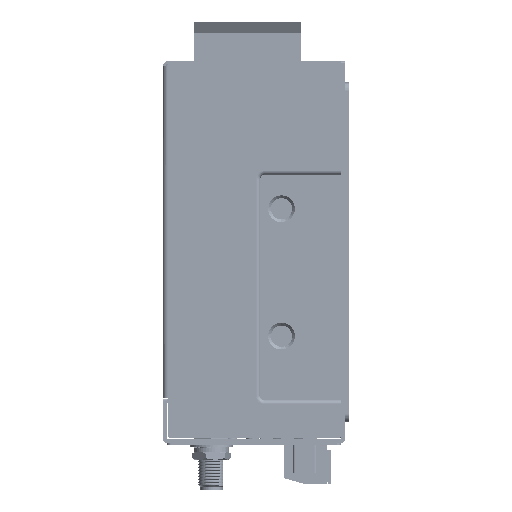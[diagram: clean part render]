
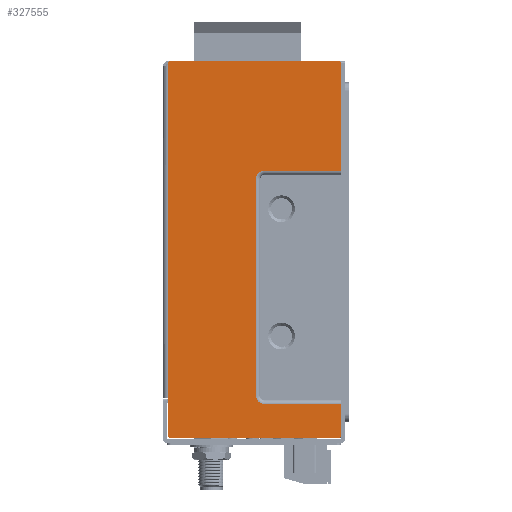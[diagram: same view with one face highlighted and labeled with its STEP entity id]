
A CAD part, left-side view. The second image highlights one B-rep face of the part: STEP entity #327555.
In plain terms, the highlighted planar face has unit normal (-1, 0, 0).
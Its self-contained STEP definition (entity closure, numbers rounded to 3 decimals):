
#4999 = LINE ( 'NONE', #87604, #101837 ) ;
#13668 = CARTESIAN_POINT ( 'NONE',  ( 0., 40.5, 9.15 ) ) ;
#20736 = ORIENTED_EDGE ( 'NONE', *, *, #264927, .T. ) ;
#22069 = EDGE_CURVE ( 'NONE', #65957, #213054, #4999, .T. ) ;
#23584 = CARTESIAN_POINT ( 'NONE',  ( 0., 41., -53.35 ) ) ;
#24817 = DIRECTION ( 'NONE',  ( 0., -1., 0. ) ) ;
#26804 = ORIENTED_EDGE ( 'NONE', *, *, #22069, .F. ) ;
#27571 = CARTESIAN_POINT ( 'NONE',  ( 0., 0.25, -119.862 ) ) ;
#28349 = EDGE_CURVE ( 'NONE', #269604, #99329, #454942, .T. ) ;
#39164 = CIRCLE ( 'NONE', #210159, 2. ) ;
#46855 = AXIS2_PLACEMENT_3D ( 'NONE', #473556, #258860, #434561 ) ;
#47172 = EDGE_CURVE ( 'NONE', #118512, #274430, #470676, .T. ) ;
#52175 = CARTESIAN_POINT ( 'NONE',  ( 0., 40.5, 9.65 ) ) ;
#59622 = DIRECTION ( 'NONE',  ( 0., 1., 0. ) ) ;
#61406 = CARTESIAN_POINT ( 'NONE',  ( 0., 23., 1.65 ) ) ;
#64892 = EDGE_CURVE ( 'NONE', #193754, #142544, #316371, .T. ) ;
#65957 = VERTEX_POINT ( 'NONE', #246201 ) ;
#66289 = EDGE_CURVE ( 'NONE', #318173, #103723, #396752, .T. ) ;
#67476 = ORIENTED_EDGE ( 'NONE', *, *, #262192, .T. ) ;
#67615 = VERTEX_POINT ( 'NONE', #23584 ) ;
#72549 = CARTESIAN_POINT ( 'NONE',  ( 0., 0., -53.35 ) ) ;
#72637 = CARTESIAN_POINT ( 'NONE',  ( 0., 41., 9.15 ) ) ;
#73888 = LINE ( 'NONE', #290799, #427929 ) ;
#77316 = DIRECTION ( 'NONE',  ( 0., 1., 0. ) ) ;
#77768 = ORIENTED_EDGE ( 'NONE', *, *, #354176, .T. ) ;
#79897 = CARTESIAN_POINT ( 'NONE',  ( 0., 40.5, -78.6 ) ) ;
#80133 = CARTESIAN_POINT ( 'NONE',  ( 0., 41., 1.65 ) ) ;
#81314 = AXIS2_PLACEMENT_3D ( 'NONE', #79897, #374794, #408991 ) ;
#82693 = CARTESIAN_POINT ( 'NONE',  ( 0., 23., 1.65 ) ) ;
#87604 = CARTESIAN_POINT ( 'NONE',  ( 0., 0.25, 9.65 ) ) ;
#89874 = CARTESIAN_POINT ( 'NONE',  ( 0., 0.75, -78.6 ) ) ;
#99329 = VERTEX_POINT ( 'NONE', #143856 ) ;
#101837 = VECTOR ( 'NONE', #267939, 1000. ) ;
#103723 = VERTEX_POINT ( 'NONE', #224429 ) ;
#104794 = ORIENTED_EDGE ( 'NONE', *, *, #47172, .T. ) ;
#105293 = LINE ( 'NONE', #478151, #469911 ) ;
#107426 = ORIENTED_EDGE ( 'NONE', *, *, #134273, .T. ) ;
#111476 = LINE ( 'NONE', #72549, #169003 ) ;
#115192 = DIRECTION ( 'NONE',  ( 0., 0., -1. ) ) ;
#118512 = VERTEX_POINT ( 'NONE', #80133 ) ;
#119306 = DIRECTION ( 'NONE',  ( 0., 1., 0. ) ) ;
#126281 = CARTESIAN_POINT ( 'NONE',  ( 0., 23., -0.35 ) ) ;
#126331 = ORIENTED_EDGE ( 'NONE', *, *, #66289, .T. ) ;
#130223 = DIRECTION ( 'NONE',  ( -1., 0., 0. ) ) ;
#134273 = EDGE_CURVE ( 'NONE', #103723, #478543, #39164, .T. ) ;
#136718 = CIRCLE ( 'NONE', #152021, 0.5 ) ;
#141004 = CARTESIAN_POINT ( 'NONE',  ( 0., 21., 0. ) ) ;
#142544 = VERTEX_POINT ( 'NONE', #361020 ) ;
#143856 = CARTESIAN_POINT ( 'NONE',  ( 0., 40.5, -79.1 ) ) ;
#152021 = AXIS2_PLACEMENT_3D ( 'NONE', #13668, #162273, #244824 ) ;
#153395 = ORIENTED_EDGE ( 'NONE', *, *, #260372, .T. ) ;
#159494 = DIRECTION ( 'NONE',  ( 0., -1., 0. ) ) ;
#161898 = LINE ( 'NONE', #424946, #358108 ) ;
#162273 = DIRECTION ( 'NONE',  ( -1., 0., 0. ) ) ;
#162630 = CIRCLE ( 'NONE', #263795, 0.5 ) ;
#169003 = VECTOR ( 'NONE', #77316, 1000. ) ;
#172840 = CIRCLE ( 'NONE', #437593, 0.5 ) ;
#177752 = EDGE_CURVE ( 'NONE', #65957, #142544, #162630, .T. ) ;
#182335 = CARTESIAN_POINT ( 'NONE',  ( 0., 0.25, 0.15 ) ) ;
#188925 = EDGE_CURVE ( 'NONE', #99329, #281277, #161898, .T. ) ;
#193754 = VERTEX_POINT ( 'NONE', #52175 ) ;
#203419 = VECTOR ( 'NONE', #333354, 1000. ) ;
#204472 = VERTEX_POINT ( 'NONE', #72637 ) ;
#208550 = CIRCLE ( 'NONE', #325534, 2. ) ;
#210159 = AXIS2_PLACEMENT_3D ( 'NONE', #329147, #297253, #446060 ) ;
#213054 = VERTEX_POINT ( 'NONE', #182335 ) ;
#216806 = ORIENTED_EDGE ( 'NONE', *, *, #64892, .F. ) ;
#219956 = CARTESIAN_POINT ( 'NONE',  ( 0., 0.25, -77.923 ) ) ;
#222315 = PLANE ( 'NONE',  #46855 ) ;
#224429 = CARTESIAN_POINT ( 'NONE',  ( 0., 21., -51.35 ) ) ;
#235591 = VERTEX_POINT ( 'NONE', #356246 ) ;
#235687 = ORIENTED_EDGE ( 'NONE', *, *, #28349, .T. ) ;
#238554 = VECTOR ( 'NONE', #477142, 1000. ) ;
#244824 = DIRECTION ( 'NONE',  ( 0., 1., 0. ) ) ;
#246201 = CARTESIAN_POINT ( 'NONE',  ( 0., 0.25, 9.15 ) ) ;
#249148 = DIRECTION ( 'NONE',  ( 0., 0., 1. ) ) ;
#254119 = FACE_OUTER_BOUND ( 'NONE', #359401, .T. ) ;
#255361 = LINE ( 'NONE', #404056, #203419 ) ;
#258860 = DIRECTION ( 'NONE',  ( 1., 0., 0. ) ) ;
#259766 = ORIENTED_EDGE ( 'NONE', *, *, #471539, .T. ) ;
#260137 = ORIENTED_EDGE ( 'NONE', *, *, #177752, .T. ) ;
#260372 = EDGE_CURVE ( 'NONE', #235591, #399918, #475818, .T. ) ;
#262192 = EDGE_CURVE ( 'NONE', #193754, #204472, #136718, .T. ) ;
#263795 = AXIS2_PLACEMENT_3D ( 'NONE', #349516, #130223, #59622 ) ;
#264927 = EDGE_CURVE ( 'NONE', #274430, #318173, #208550, .T. ) ;
#267939 = DIRECTION ( 'NONE',  ( 0., 0., -1. ) ) ;
#268889 = ORIENTED_EDGE ( 'NONE', *, *, #270499, .T. ) ;
#269604 = VERTEX_POINT ( 'NONE', #310899 ) ;
#270499 = EDGE_CURVE ( 'NONE', #478543, #67615, #111476, .T. ) ;
#274430 = VERTEX_POINT ( 'NONE', #82693 ) ;
#275854 = VECTOR ( 'NONE', #352920, 1000. ) ;
#281277 = VERTEX_POINT ( 'NONE', #316468 ) ;
#290260 = ORIENTED_EDGE ( 'NONE', *, *, #443444, .F. ) ;
#290799 = CARTESIAN_POINT ( 'NONE',  ( 0., 41., 0. ) ) ;
#293135 = VECTOR ( 'NONE', #24817, 1000. ) ;
#297253 = DIRECTION ( 'NONE',  ( 1., 0., 0. ) ) ;
#301811 = DIRECTION ( 'NONE',  ( 0., 1., 0. ) ) ;
#310899 = CARTESIAN_POINT ( 'NONE',  ( 0., 41., -78.6 ) ) ;
#316371 = LINE ( 'NONE', #433294, #275854 ) ;
#316468 = CARTESIAN_POINT ( 'NONE',  ( 0., 0.75, -79.1 ) ) ;
#318173 = VERTEX_POINT ( 'NONE', #443023 ) ;
#325534 = AXIS2_PLACEMENT_3D ( 'NONE', #126281, #347959, #301811 ) ;
#327555 = ADVANCED_FACE ( 'NONE', ( #254119 ), #222315, .F. ) ;
#329147 = CARTESIAN_POINT ( 'NONE',  ( 0., 23., -51.35 ) ) ;
#333354 = DIRECTION ( 'NONE',  ( 0., 0., -1. ) ) ;
#347959 = DIRECTION ( 'NONE',  ( 1., 0., 0. ) ) ;
#349516 = CARTESIAN_POINT ( 'NONE',  ( 0., 0.75, 9.15 ) ) ;
#352920 = DIRECTION ( 'NONE',  ( 0., -1., 0. ) ) ;
#354176 = EDGE_CURVE ( 'NONE', #281277, #235591, #172840, .T. ) ;
#356246 = CARTESIAN_POINT ( 'NONE',  ( 0., 0.25, -78.6 ) ) ;
#358108 = VECTOR ( 'NONE', #159494, 1000. ) ;
#359395 = CARTESIAN_POINT ( 'NONE',  ( 0., 23., -53.35 ) ) ;
#359401 = EDGE_LOOP ( 'NONE', ( #389020, #77768, #153395, #290260, #26804, #260137, #216806, #67476, #433018, #104794, #20736, #126331, #107426, #268889, #259766, #235687 ) ) ;
#361020 = CARTESIAN_POINT ( 'NONE',  ( 0., 0.75, 9.65 ) ) ;
#369447 = VECTOR ( 'NONE', #249148, 1000. ) ;
#373338 = EDGE_CURVE ( 'NONE', #204472, #118512, #73888, .T. ) ;
#374794 = DIRECTION ( 'NONE',  ( -1., 0., 0. ) ) ;
#389020 = ORIENTED_EDGE ( 'NONE', *, *, #188925, .T. ) ;
#396752 = LINE ( 'NONE', #141004, #238554 ) ;
#399918 = VERTEX_POINT ( 'NONE', #219956 ) ;
#400180 = DIRECTION ( 'NONE',  ( 0., 0., -1. ) ) ;
#404056 = CARTESIAN_POINT ( 'NONE',  ( 0., 41., 0. ) ) ;
#408991 = DIRECTION ( 'NONE',  ( 0., 1., 0. ) ) ;
#424946 = CARTESIAN_POINT ( 'NONE',  ( 0., 0.25, -79.1 ) ) ;
#427929 = VECTOR ( 'NONE', #115192, 1000. ) ;
#433018 = ORIENTED_EDGE ( 'NONE', *, *, #373338, .T. ) ;
#433294 = CARTESIAN_POINT ( 'NONE',  ( 0., 41., 9.65 ) ) ;
#434561 = DIRECTION ( 'NONE',  ( 0., 1., 0. ) ) ;
#437593 = AXIS2_PLACEMENT_3D ( 'NONE', #89874, #457951, #119306 ) ;
#443023 = CARTESIAN_POINT ( 'NONE',  ( 0., 21., -0.35 ) ) ;
#443444 = EDGE_CURVE ( 'NONE', #213054, #399918, #105293, .T. ) ;
#446060 = DIRECTION ( 'NONE',  ( 0., 1., 0. ) ) ;
#454942 = CIRCLE ( 'NONE', #81314, 0.5 ) ;
#457951 = DIRECTION ( 'NONE',  ( -1., 0., 0. ) ) ;
#469911 = VECTOR ( 'NONE', #400180, 1000. ) ;
#470676 = LINE ( 'NONE', #61406, #293135 ) ;
#471539 = EDGE_CURVE ( 'NONE', #67615, #269604, #255361, .T. ) ;
#473556 = CARTESIAN_POINT ( 'NONE',  ( 0., 0., 0. ) ) ;
#475818 = LINE ( 'NONE', #27571, #369447 ) ;
#477142 = DIRECTION ( 'NONE',  ( 0., 0., -1. ) ) ;
#478151 = CARTESIAN_POINT ( 'NONE',  ( 0., 0.25, -79.1 ) ) ;
#478543 = VERTEX_POINT ( 'NONE', #359395 ) ;
